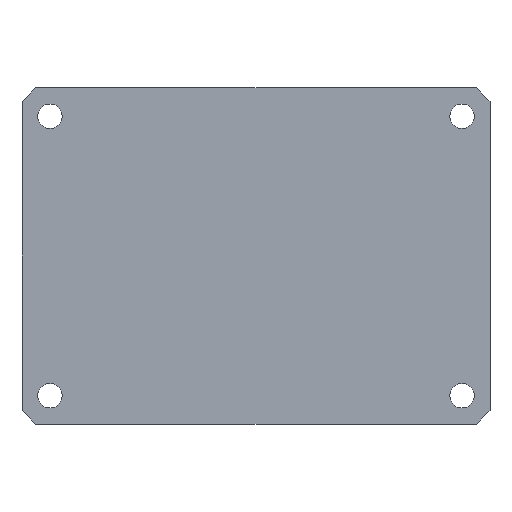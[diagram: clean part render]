
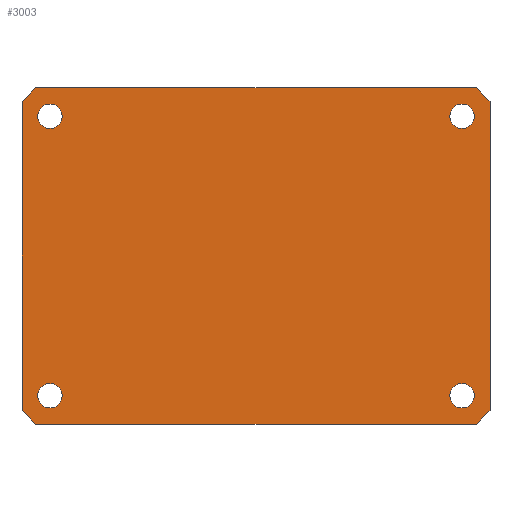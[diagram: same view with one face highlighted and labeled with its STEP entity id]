
A CAD part, front view. The second image highlights one B-rep face of the part: STEP entity #3003.
In plain terms, the highlighted planar face has unit normal (0, -1, 0).
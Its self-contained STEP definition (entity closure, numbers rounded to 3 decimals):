
#299 = EDGE_LOOP ( 'NONE', ( #6256, #6257 ) ) ;
#320 = EDGE_LOOP ( 'NONE', ( #6262, #6263, #6264, #6265, #6266, #6267, #6268, #6269 ) ) ;
#322 = EDGE_LOOP ( 'NONE', ( #6260, #6261 ) ) ;
#323 = EDGE_LOOP ( 'NONE', ( #6254, #6255 ) ) ;
#324 = EDGE_LOOP ( 'NONE', ( #6258, #6259 ) ) ;
#859 = EDGE_CURVE ( 'NONE', #6888, #6876, #5482, .T. ) ;
#892 = EDGE_CURVE ( 'NONE', #6896, #6904, #1381, .T. ) ;
#893 = EDGE_CURVE ( 'NONE', #6848, #6899, #1366, .T. ) ;
#894 = EDGE_CURVE ( 'NONE', #6838, #6832, #1386, .T. ) ;
#895 = EDGE_CURVE ( 'NONE', #6902, #6851, #1389, .T. ) ;
#896 = EDGE_CURVE ( 'NONE', #6914, #6842, #5391, .T. ) ;
#897 = EDGE_CURVE ( 'NONE', #6923, #6872, #5394, .T. ) ;
#898 = EDGE_CURVE ( 'NONE', #6858, #6901, #5390, .T. ) ;
#899 = EDGE_CURVE ( 'NONE', #6876, #6888, #5388, .T. ) ;
#911 = EDGE_CURVE ( 'NONE', #6896, #6899, #1439, .T. ) ;
#913 = EDGE_CURVE ( 'NONE', #6902, #6904, #1407, .T. ) ;
#972 = EDGE_CURVE ( 'NONE', #6838, #6851, #1729, .T. ) ;
#976 = EDGE_CURVE ( 'NONE', #6848, #6832, #1741, .T. ) ;
#980 = EDGE_CURVE ( 'NONE', #6842, #6914, #5339, .T. ) ;
#984 = EDGE_CURVE ( 'NONE', #6872, #6923, #5333, .T. ) ;
#988 = EDGE_CURVE ( 'NONE', #6901, #6858, #5327, .T. ) ;
#1283 = CARTESIAN_POINT ( 'NONE',  ( -29.5, 0., -20. ) ) ;
#1284 = DIRECTION ( 'NONE',  ( 0., 1., 0. ) ) ;
#1285 = DIRECTION ( 'NONE',  ( 0., 0., 1. ) ) ;
#1366 = LINE ( 'NONE', #1384, #5398 ) ;
#1381 = LINE ( 'NONE', #1382, #5395 ) ;
#1382 = CARTESIAN_POINT ( 'NONE',  ( -23.1, 0., 32.5 ) ) ;
#1383 = DIRECTION ( 'NONE',  ( -0.707, 0., -0.707 ) ) ;
#1384 = CARTESIAN_POINT ( 'NONE',  ( 56.6, 0., -1. ) ) ;
#1385 = DIRECTION ( 'NONE',  ( -0.707, 0., 0.707 ) ) ;
#1386 = LINE ( 'NONE', #1387, #5393 ) ;
#1387 = CARTESIAN_POINT ( 'NONE',  ( 32.5, 0., -23.1 ) ) ;
#1388 = DIRECTION ( 'NONE',  ( 0.707, 0., 0.707 ) ) ;
#1389 = LINE ( 'NONE', #1390, #5392 ) ;
#1390 = CARTESIAN_POINT ( 'NONE',  ( 1., 0., -56.6 ) ) ;
#1391 = DIRECTION ( 'NONE',  ( 0.707, 0., -0.707 ) ) ;
#1393 = CARTESIAN_POINT ( 'NONE',  ( 29.5, 0., -20. ) ) ;
#1394 = DIRECTION ( 'NONE',  ( 0., 1., 0. ) ) ;
#1395 = DIRECTION ( 'NONE',  ( 0., 0., 1. ) ) ;
#1396 = CARTESIAN_POINT ( 'NONE',  ( 29.5, 0., 20. ) ) ;
#1397 = DIRECTION ( 'NONE',  ( 0., 1., 0. ) ) ;
#1398 = DIRECTION ( 'NONE',  ( 0., 0., 1. ) ) ;
#1400 = CARTESIAN_POINT ( 'NONE',  ( -29.5, 0., 20. ) ) ;
#1401 = DIRECTION ( 'NONE',  ( 0., 1., 0. ) ) ;
#1402 = DIRECTION ( 'NONE',  ( 0., 0., 1. ) ) ;
#1404 = CARTESIAN_POINT ( 'NONE',  ( -29.5, 0., -20. ) ) ;
#1405 = DIRECTION ( 'NONE',  ( 0., 1., 0. ) ) ;
#1406 = DIRECTION ( 'NONE',  ( 0., 0., 1. ) ) ;
#1407 = LINE ( 'NONE', #1446, #5474 ) ;
#1439 = LINE ( 'NONE', #1440, #5472 ) ;
#1440 = CARTESIAN_POINT ( 'NONE',  ( -33.5, 0., 24.1 ) ) ;
#1441 = DIRECTION ( 'NONE',  ( 1., 0., 0. ) ) ;
#1446 = CARTESIAN_POINT ( 'NONE',  ( -33.5, 0., 24.1 ) ) ;
#1447 = DIRECTION ( 'NONE',  ( 0., 0., 1. ) ) ;
#1729 = LINE ( 'NONE', #1730, #5348 ) ;
#1730 = CARTESIAN_POINT ( 'NONE',  ( -33.5, 0., -24.1 ) ) ;
#1731 = DIRECTION ( 'NONE',  ( -1., 0., 0. ) ) ;
#1741 = LINE ( 'NONE', #1742, #5344 ) ;
#1742 = CARTESIAN_POINT ( 'NONE',  ( 33.5, 0., 24.1 ) ) ;
#1743 = DIRECTION ( 'NONE',  ( 0., 0., -1. ) ) ;
#1755 = CARTESIAN_POINT ( 'NONE',  ( 29.5, 0., -20. ) ) ;
#1756 = DIRECTION ( 'NONE',  ( 0., 1., 0. ) ) ;
#1757 = DIRECTION ( 'NONE',  ( 0., 0., 1. ) ) ;
#1767 = CARTESIAN_POINT ( 'NONE',  ( 29.5, 0., 20. ) ) ;
#1768 = DIRECTION ( 'NONE',  ( 0., 1., 0. ) ) ;
#1769 = DIRECTION ( 'NONE',  ( 0., 0., 1. ) ) ;
#1779 = CARTESIAN_POINT ( 'NONE',  ( -29.5, 0., 20. ) ) ;
#1780 = DIRECTION ( 'NONE',  ( 0., 1., 0. ) ) ;
#1781 = DIRECTION ( 'NONE',  ( 0., 0., 1. ) ) ;
#3003 = ADVANCED_FACE ( 'NONE', ( #3431, #3427, #3434, #3436, #3430 ), #3422, .T. ) ;
#3422 = PLANE ( 'NONE',  #7159 ) ;
#3427 = FACE_BOUND ( 'NONE', #299, .T. ) ;
#3430 = FACE_OUTER_BOUND ( 'NONE', #320, .T. ) ;
#3431 = FACE_BOUND ( 'NONE', #323, .T. ) ;
#3433 = CARTESIAN_POINT ( 'NONE',  ( 33.5, 0., -24.1 ) ) ;
#3434 = FACE_BOUND ( 'NONE', #324, .T. ) ;
#3436 = FACE_BOUND ( 'NONE', #322, .T. ) ;
#3437 = DIRECTION ( 'NONE',  ( 0., -1., 0. ) ) ;
#3438 = DIRECTION ( 'NONE',  ( 0., 0., -1. ) ) ;
#4788 = CARTESIAN_POINT ( 'NONE',  ( 33.5, 0., -22.1 ) ) ;
#4794 = CARTESIAN_POINT ( 'NONE',  ( 31.5, 0., -24.1 ) ) ;
#4798 = CARTESIAN_POINT ( 'NONE',  ( 29.5, 0., -21.75 ) ) ;
#4804 = CARTESIAN_POINT ( 'NONE',  ( 33.5, 0., 22.1 ) ) ;
#4807 = CARTESIAN_POINT ( 'NONE',  ( -31.5, 0., -24.1 ) ) ;
#4814 = CARTESIAN_POINT ( 'NONE',  ( -29.5, 0., 21.75 ) ) ;
#4828 = CARTESIAN_POINT ( 'NONE',  ( 29.5, 0., 18.25 ) ) ;
#4832 = CARTESIAN_POINT ( 'NONE',  ( -29.5, 0., -18.25 ) ) ;
#4844 = CARTESIAN_POINT ( 'NONE',  ( -29.5, 0., -21.75 ) ) ;
#4852 = CARTESIAN_POINT ( 'NONE',  ( -31.5, 0., 24.1 ) ) ;
#4855 = CARTESIAN_POINT ( 'NONE',  ( 31.5, 0., 24.1 ) ) ;
#4857 = CARTESIAN_POINT ( 'NONE',  ( -29.5, 0., 18.25 ) ) ;
#4858 = CARTESIAN_POINT ( 'NONE',  ( -33.5, 0., -22.1 ) ) ;
#4860 = CARTESIAN_POINT ( 'NONE',  ( -33.5, 0., 22.1 ) ) ;
#4870 = CARTESIAN_POINT ( 'NONE',  ( 29.5, 0., -18.25 ) ) ;
#4879 = CARTESIAN_POINT ( 'NONE',  ( 29.5, 0., 21.75 ) ) ;
#5325 = AXIS2_PLACEMENT_3D ( 'NONE', #1779, #1780, #1781 ) ;
#5327 = CIRCLE ( 'NONE', #5325, 1.75 ) ;
#5331 = AXIS2_PLACEMENT_3D ( 'NONE', #1767, #1768, #1769 ) ;
#5333 = CIRCLE ( 'NONE', #5331, 1.75 ) ;
#5337 = AXIS2_PLACEMENT_3D ( 'NONE', #1755, #1756, #1757 ) ;
#5339 = CIRCLE ( 'NONE', #5337, 1.75 ) ;
#5344 = VECTOR ( 'NONE', #1743, 1000. ) ;
#5348 = VECTOR ( 'NONE', #1731, 1000. ) ;
#5383 = AXIS2_PLACEMENT_3D ( 'NONE', #1404, #1405, #1406 ) ;
#5385 = AXIS2_PLACEMENT_3D ( 'NONE', #1400, #1401, #1402 ) ;
#5387 = AXIS2_PLACEMENT_3D ( 'NONE', #1396, #1397, #1398 ) ;
#5388 = CIRCLE ( 'NONE', #5383, 1.75 ) ;
#5389 = AXIS2_PLACEMENT_3D ( 'NONE', #1393, #1394, #1395 ) ;
#5390 = CIRCLE ( 'NONE', #5385, 1.75 ) ;
#5391 = CIRCLE ( 'NONE', #5389, 1.75 ) ;
#5392 = VECTOR ( 'NONE', #1391, 1000. ) ;
#5393 = VECTOR ( 'NONE', #1388, 1000. ) ;
#5394 = CIRCLE ( 'NONE', #5387, 1.75 ) ;
#5395 = VECTOR ( 'NONE', #1383, 1000. ) ;
#5398 = VECTOR ( 'NONE', #1385, 1000. ) ;
#5472 = VECTOR ( 'NONE', #1441, 1000. ) ;
#5474 = VECTOR ( 'NONE', #1447, 1000. ) ;
#5480 = AXIS2_PLACEMENT_3D ( 'NONE', #1283, #1284, #1285 ) ;
#5482 = CIRCLE ( 'NONE', #5480, 1.75 ) ;
#6254 = ORIENTED_EDGE ( 'NONE', *, *, #899, .T. ) ;
#6255 = ORIENTED_EDGE ( 'NONE', *, *, #859, .T. ) ;
#6256 = ORIENTED_EDGE ( 'NONE', *, *, #898, .T. ) ;
#6257 = ORIENTED_EDGE ( 'NONE', *, *, #988, .T. ) ;
#6258 = ORIENTED_EDGE ( 'NONE', *, *, #897, .T. ) ;
#6259 = ORIENTED_EDGE ( 'NONE', *, *, #984, .T. ) ;
#6260 = ORIENTED_EDGE ( 'NONE', *, *, #896, .T. ) ;
#6261 = ORIENTED_EDGE ( 'NONE', *, *, #980, .T. ) ;
#6262 = ORIENTED_EDGE ( 'NONE', *, *, #913, .F. ) ;
#6263 = ORIENTED_EDGE ( 'NONE', *, *, #895, .T. ) ;
#6264 = ORIENTED_EDGE ( 'NONE', *, *, #972, .F. ) ;
#6265 = ORIENTED_EDGE ( 'NONE', *, *, #894, .T. ) ;
#6266 = ORIENTED_EDGE ( 'NONE', *, *, #976, .F. ) ;
#6267 = ORIENTED_EDGE ( 'NONE', *, *, #893, .T. ) ;
#6268 = ORIENTED_EDGE ( 'NONE', *, *, #911, .F. ) ;
#6269 = ORIENTED_EDGE ( 'NONE', *, *, #892, .T. ) ;
#6832 = VERTEX_POINT ( 'NONE', #4788 ) ;
#6838 = VERTEX_POINT ( 'NONE', #4794 ) ;
#6842 = VERTEX_POINT ( 'NONE', #4798 ) ;
#6848 = VERTEX_POINT ( 'NONE', #4804 ) ;
#6851 = VERTEX_POINT ( 'NONE', #4807 ) ;
#6858 = VERTEX_POINT ( 'NONE', #4814 ) ;
#6872 = VERTEX_POINT ( 'NONE', #4828 ) ;
#6876 = VERTEX_POINT ( 'NONE', #4832 ) ;
#6888 = VERTEX_POINT ( 'NONE', #4844 ) ;
#6896 = VERTEX_POINT ( 'NONE', #4852 ) ;
#6899 = VERTEX_POINT ( 'NONE', #4855 ) ;
#6901 = VERTEX_POINT ( 'NONE', #4857 ) ;
#6902 = VERTEX_POINT ( 'NONE', #4858 ) ;
#6904 = VERTEX_POINT ( 'NONE', #4860 ) ;
#6914 = VERTEX_POINT ( 'NONE', #4870 ) ;
#6923 = VERTEX_POINT ( 'NONE', #4879 ) ;
#7159 = AXIS2_PLACEMENT_3D ( 'NONE', #3433, #3437, #3438 ) ;
